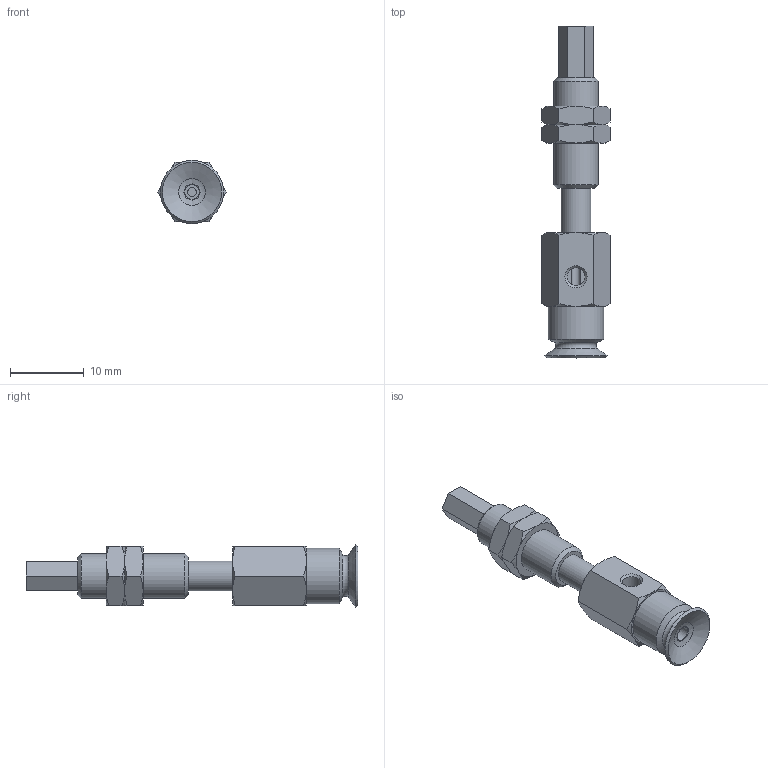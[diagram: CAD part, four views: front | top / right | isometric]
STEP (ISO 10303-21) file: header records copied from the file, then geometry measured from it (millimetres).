
FILE_DESCRIPTION(('STEP AP203'),'1');
FILE_NAME('.stp','2025-04-09T06:25:06',(' '),(' '),'Spatial InterOp 3D',' ',' ');
FILE_SCHEMA(('CONFIG_CONTROL_DESIGN'));
Length unit declared in the file: millimetre
Products named in the file (6): BNABPFYS-8A-6-※; CONNECTOR-8A-6; Nut-8A-6-s; NAPFTS-8A-6-FBODY; NAPFTS-8A-6-MBODY; BPFG-8A-※
Assembly tree (6 placements, depth 2):
  BNABPFYS-8A-6-※
    CONNECTOR-8A-6
    Nut-8A-6-s  x2
    NAPFTS-8A-6-FBODY
    NAPFTS-8A-6-MBODY
    BPFG-8A-※
Bounding box: 9.24 x 45 x 8.6 mm (x, y, z)
Volume: 1502.2 mm3; surface area: 2273 mm2
Topology: 6 solids, 6 shells, 132 faces, 281 edges, 167 vertices
Faces by surface type: plane 56, cone 52, cylinder 15, torus 8, bspline 1
Full cylindrical faces by diameter (mm): 1.2 x1, 2 x1, 2.459 x2, 3 x1, 4 x4, 5.188 x2, 6 x3, 7.5 x1
Entity records: 3213 total; most frequent: CARTESIAN_POINT 783, DIRECTION 446, ORIENTED_EDGE 380, AXIS2_PLACEMENT_3D 195, EDGE_CURVE 190, EDGE_LOOP 160, FACE_OUTER_BOUND 132, VERTEX_POINT 132
